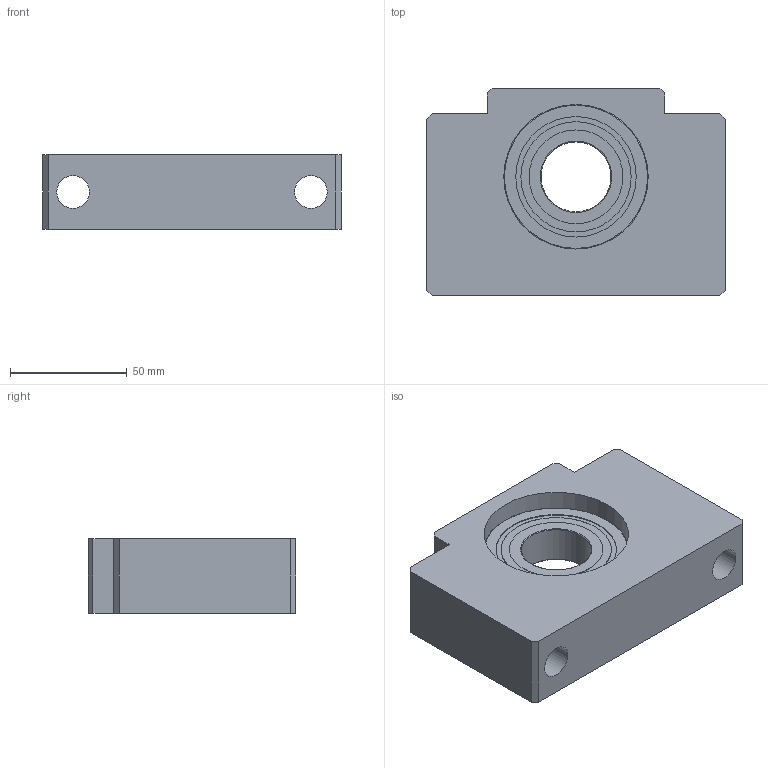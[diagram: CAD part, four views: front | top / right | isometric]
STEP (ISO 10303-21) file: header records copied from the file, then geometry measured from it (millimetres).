
FILE_DESCRIPTION(/* description */ ('STEP AP214'),/* implementation_level */ '2;1');
FILE_NAME(/* name */ 'BF30',/* time_stamp */ '2026-09-17T13:14:00+02:00',/* author */ ('License CC BY-ND 4.0'),/* organization */ ('CADENAS'),/* preprocessor_version */ 'ST-DEVELOPER v20',/* originating_system */ 'PARTsolutions',/* authorisation */ ' ');
FILE_SCHEMA (('AUTOMOTIVE_DESIGN {1 0 10303 214 3 1 1}'));
Length unit declared in the file: millimetre
Products named in the file (3): BF30; BF 30 Part1; BF 30 Part2
Assembly tree (2 placements, depth 2):
  BF30
    BF 30 Part1
    BF 30 Part2
Bounding box: 128 x 89 x 32 mm (x, y, z)
Volume: 257721 mm3; surface area: 51568.6 mm2
Topology: 2 solids, 2 shells, 43 faces, 90 edges, 59 vertices
Faces by surface type: plane 26, cylinder 13, torus 4
Full cylindrical faces by diameter (mm): 14 x2, 20 x2, 30 x1, 40.2 x2, 47.3 x2, 51.7 x2, 62 x2
Entity records: 1147 total; most frequent: DIRECTION 194, CARTESIAN_POINT 176, ORIENTED_EDGE 144, EDGE_LOOP 76, FACE_BOUND 76, AXIS2_PLACEMENT_3D 76, EDGE_CURVE 72, VERTEX_POINT 58
